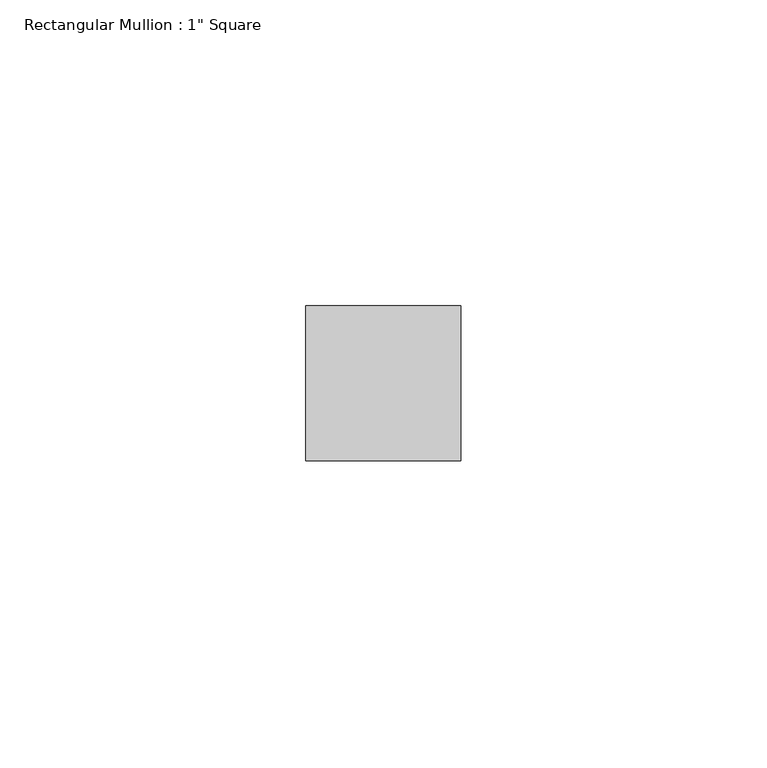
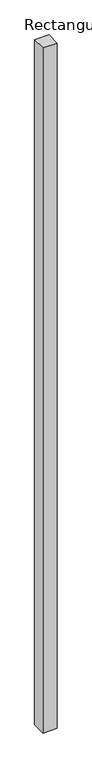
"""IFC4 building model written with IfcOpenShell, lengths in millimetres: member geometry."""

import ifcopenshell
import ifcopenshell.guid

model = None  # the IFC model being written
_history = None  # IfcOwnerHistory: only IFC2X3 demands one
_inside = {}  # id of a spatial element -> (the spatial element, [elements in it])
_under = {}  # id of a project, library or spatial element -> (it, [spatial elements below it])
_declared = {}  # id of a project -> (the project, [libraries it declares])
_typed = {}  # id of a type object -> (the type object, [elements of that type])
_made_of = {}  # id of a material, layer set ... -> (it, [elements and type objects made of it])


def new_model(schema):
    """Start an empty IFC model of exactly this schema.

    Asked for "IFC4X3", IfcOpenShell would pick the latest addendum, in which some entities
    have other attributes; the version numbers below select the first issue.
    IFC2X3 requires an IfcOwnerHistory on every rooted entity: one is made here for all.
    """
    global model, _history
    if schema == "IFC4X3":
        model = ifcopenshell.file(schema_version=(4, 3, 0, 0))
    else:
        model = ifcopenshell.file(schema=schema)
    _inside.clear()
    _under.clear()
    _declared.clear()
    _typed.clear()
    _made_of.clear()
    _history = None
    if model.schema == "IFC2X3":
        org = make("IfcOrganization", Name="unknown")
        user = make(
            "IfcPersonAndOrganization",
            ThePerson=make("IfcPerson", FamilyName="unknown"),
            TheOrganization=org,
        )
        app = make(
            "IfcApplication",
            ApplicationDeveloper=org,
            Version="unknown",
            ApplicationFullName="unknown",
            ApplicationIdentifier="unknown",
        )
        _history = make(
            "IfcOwnerHistory",
            OwningUser=user,
            OwningApplication=app,
            ChangeAction="ADDED",
            CreationDate=0,
        )
    return model


def make(cls, **values):
    """One entity of the class cls with the attributes given. An attribute that is None is left unset."""
    return model.create_entity(
        cls, **{name: value for name, value in values.items() if value is not None}
    )


def rooted(cls, **values):
    """An entity with a GlobalId (a new one), such as an element, a storey or a relation."""
    return make(cls, GlobalId=ifcopenshell.guid.new(), OwnerHistory=_history, **values)


def si_unit(unit_type, name, prefix=None):
    """IfcSIUnit, for example si_unit("LENGTHUNIT", "METRE", prefix="MILLI")."""
    return make("IfcSIUnit", UnitType=unit_type, Prefix=prefix, Name=name)


def assignment(units):
    """IfcUnitAssignment: the units of a project."""
    return None if units is None else make("IfcUnitAssignment", Units=units)


def point(xyz):
    """IfcCartesianPoint."""
    return None if xyz is None else make("IfcCartesianPoint", Coordinates=xyz)


def direction(xyz):
    """IfcDirection."""
    return None if xyz is None else make("IfcDirection", DirectionRatios=xyz)


def frame(location, z_axis=None, x_axis=None):
    """IfcAxis2Placement3D, a coordinate frame: its origin and axes. An axis left out is left unset."""
    return make(
        "IfcAxis2Placement3D",
        Location=point(location),
        Axis=direction(z_axis),
        RefDirection=direction(x_axis),
    )


def origin():
    """The frame at (0, 0, 0) with its axes left unset."""
    return frame((0.0, 0.0, 0.0))


def place(relative_to, where):
    """IfcLocalPlacement: puts the frame where relative to a parent placement (None: the world)."""
    return make(
        "IfcLocalPlacement", PlacementRelTo=relative_to, RelativePlacement=where
    )


def context(
    kind, dimensions, precision=None, world=None, true_north=None, identifier=None
):
    """IfcGeometricRepresentationContext, for example the 3D "Model" context."""
    return make(
        "IfcGeometricRepresentationContext",
        ContextIdentifier=identifier,
        ContextType=kind,
        CoordinateSpaceDimension=dimensions,
        Precision=precision,
        WorldCoordinateSystem=world,
        TrueNorth=true_north,
    )


def project(units=None, contexts=None):
    """IfcProject with its units and contexts."""
    return rooted(
        "IfcProject",
        Name="project",
        RepresentationContexts=contexts,
        UnitsInContext=assignment(units),
    )


def spatial(cls, under=None, at=None, **own):
    """A site, building, storey or space (cls), placed at a placement, below another one or the project."""
    s = rooted(cls, ObjectPlacement=at, **own)
    if under is not None:
        _under.setdefault(under.id(), (under, []))[1].append(s)
    return s


def polyline(points):
    """IfcPolyline through the points."""
    return make("IfcPolyline", Points=[point(p) for p in points])


def outline(outer, holes=None, kind="AREA"):
    """IfcArbitraryClosedProfileDef: a profile drawn as a closed curve; with holes, ...WithVoids."""
    if holes is None:
        return make("IfcArbitraryClosedProfileDef", ProfileType=kind, OuterCurve=outer)
    return make(
        "IfcArbitraryProfileDefWithVoids",
        ProfileType=kind,
        OuterCurve=outer,
        InnerCurves=holes,
    )


def extrude(swept, where, along, depth):
    """IfcExtrudedAreaSolid: the profile swept, set in the frame where, extruded along a direction by depth."""
    return make(
        "IfcExtrudedAreaSolid",
        SweptArea=swept,
        Position=where,
        ExtrudedDirection=direction(along),
        Depth=depth,
    )


def shape(context_of_items, identifier, shape_type, items):
    """IfcShapeRepresentation: the items that make up one representation, for example the "Body"."""
    return make(
        "IfcShapeRepresentation",
        ContextOfItems=context_of_items,
        RepresentationIdentifier=identifier,
        RepresentationType=shape_type,
        Items=items,
    )


def source(mapping_origin, context_of_items, identifier, shape_type, items):
    """IfcRepresentationMap: a shape defined once, which mapped items show again and again."""
    return make(
        "IfcRepresentationMap",
        MappingOrigin=mapping_origin,
        MappedRepresentation=shape(context_of_items, identifier, shape_type, items),
    )


def transform(
    local_origin,
    x_axis=None,
    y_axis=None,
    z_axis=None,
    scale=None,
    scale2=None,
    scale3=None,
    uniform=True,
):
    """IfcCartesianTransformationOperator3D, or its non-uniform kind. x_axis, y_axis, z_axis: its Axis1, 2, 3."""
    if uniform:
        return make(
            "IfcCartesianTransformationOperator3D",
            Axis1=direction(x_axis),
            Axis2=direction(y_axis),
            LocalOrigin=point(local_origin),
            Scale=scale,
            Axis3=direction(z_axis),
        )
    return make(
        "IfcCartesianTransformationOperator3DnonUniform",
        Axis1=direction(x_axis),
        Axis2=direction(y_axis),
        LocalOrigin=point(local_origin),
        Scale=scale,
        Axis3=direction(z_axis),
        Scale2=scale2,
        Scale3=scale3,
    )


def mapped(mapping_source, mapping_target):
    """IfcMappedItem: shows the shape of a source again, moved by a transform."""
    return make(
        "IfcMappedItem", MappingSource=mapping_source, MappingTarget=mapping_target
    )


def made_of(thing, what):
    """Note that an element or type object is made of a material, layer set ...; save() writes the relation."""
    if what is not None:
        _made_of.setdefault(what.id(), (what, []))[1].append(thing)
    return thing


def element(
    cls,
    number,
    at=None,
    inside=None,
    cuts=None,
    type_object=None,
    material=None,
    context=None,
    identifier="Body",
    shape_type=None,
    held_by="IfcProductDefinitionShape",
    body=None,
    shapes=None,
    **own,
):
    """One element of the class cls, such as IfcWall. Its Tag is "e" and its number.

    at: its placement. inside: the storey or other place that contains it. cuts: it is an
    opening in that element (IfcRelVoidsElement). A single representation is given by context,
    identifier, shape_type and body (its items); several are given by shapes. held_by: the class
    of the entity that holds the representations. save() writes the other relations.
    """
    e = rooted(cls, Tag="e%d" % number, ObjectPlacement=at, **own)
    if body is not None:
        shapes = [shape(context, identifier, shape_type, body)]
    if shapes is not None:
        e.Representation = make(held_by, Representations=shapes)
    if inside is not None:
        _inside.setdefault(inside.id(), (inside, []))[1].append(e)
    if cuts is not None:
        rooted(
            "IfcRelVoidsElement", RelatingBuildingElement=cuts, RelatedOpeningElement=e
        )
    if type_object is not None:
        _typed.setdefault(type_object.id(), (type_object, []))[1].append(e)
    return made_of(e, material)


def aggregate(whole, parts):
    """IfcRelAggregates: a whole, such as a stair, and the parts it consists of."""
    return rooted("IfcRelAggregates", RelatingObject=whole, RelatedObjects=parts)


def save(model, path):
    """Write the relations noted so far, then the file.

    IfcRelAggregates (storeys below a building ...), IfcRelContainedInSpatialStructure (elements
    in a storey), IfcRelDefinesByType, IfcRelAssociatesMaterial and IfcRelDeclares: one each for
    every whole, place, type object, material and project.
    """
    for whole, parts in _under.values():
        aggregate(whole, parts)
    for where, things in _inside.values():
        rooted(
            "IfcRelContainedInSpatialStructure",
            RelatedElements=things,
            RelatingStructure=where,
        )
    for kind, things in _typed.values():
        rooted("IfcRelDefinesByType", RelatedObjects=things, RelatingType=kind)
    for what, things in _made_of.values():
        rooted("IfcRelAssociatesMaterial", RelatedObjects=things, RelatingMaterial=what)
    for by, libraries in _declared.values():
        rooted("IfcRelDeclares", RelatingContext=by, RelatedDefinitions=libraries)
    model.write(path)


def member_f8dfbb61(model_context):
    return source(origin(), model_context, "Body", "SweptSolid", [
        extrude(outline(polyline([(12.7, 12.7), (12.7, -12.7), (-12.7, -12.7), (-12.7, 12.7), (12.7, 12.7)])), frame((0.0, 0.0, -1294.0499987), z_axis=(0.0, 0.0, 1.0), x_axis=(1.0, 0.0, 0.0)), (0.0, 0.0, 1.0), 1294.0499987),
    ])


if __name__ == "__main__":
    model = new_model("IFC4")
    model_context = context("Model", 3, world=origin())
    ifc_project = project(units=[si_unit("LENGTHUNIT", "METRE", prefix="MILLI")], contexts=[model_context])
    site = spatial("IfcSite", under=ifc_project)
    building = spatial("IfcBuilding", under=site)
    placement = place(None, origin())
    member_shape = member_f8dfbb61(model_context)
    element("IfcMember", 1, ObjectType="Rectangular Mullion : 1\" Square", at=placement, inside=building, context=model_context, shape_type="MappedRepresentation", body=[
        mapped(member_shape, transform((0.0, 0.0, 0.0), x_axis=(1.0, 0.0, 0.0), y_axis=(0.0, 1.0, 0.0), z_axis=(0.0, 0.0, 1.0))),
    ])
    save(model, "model.ifc")
